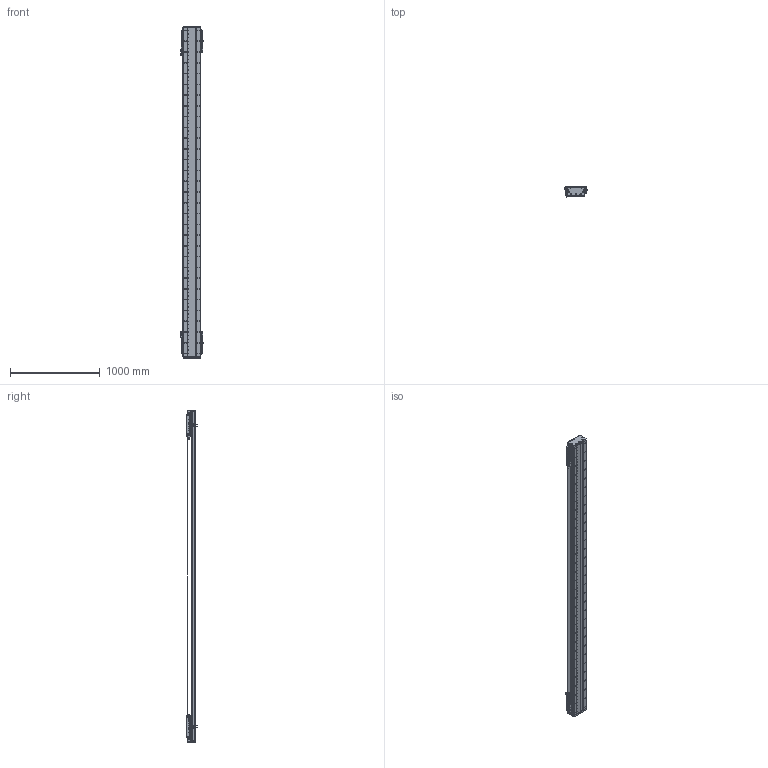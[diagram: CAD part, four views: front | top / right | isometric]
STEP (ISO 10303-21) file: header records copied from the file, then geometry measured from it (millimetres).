
FILE_DESCRIPTION (( 'STEP AP203' ), '1' );
FILE_NAME ('DA-C195-2-C3-T3080-C010-0.2 眻盄萇儂.STEP', '2025-08-15T00:54:00', ( '' ), ( '' ), 'SwSTEP 2.0', 'SolidWorks 2019', '' );
FILE_SCHEMA (( 'CONFIG_CONTROL_DESIGN' ));
Length unit declared in the file: millimetre
Products named in the file (19): IU-CU195-L 菁釱絳寢; DA-C195-2-C3-T3080-C010-0.2 眻盄萇儂; DA95-HXJ-00 遣喳砎蝶; DKW-KGZ-ZJ-00 中间光电开关支架; MS200 棠掑喜S315-T240; DA165-GYP-00 光电感应片(默认); PM-Y65嫖萇羲壽郪璃; DA-C195-GD-DB-H-00 傷啣; DA195詩湍菜輸; LMT黍杅芛; PM-T45ㄗ侂狟ㄘ; DKW-GYP-ZJ-00 笢潔嫖萇覜茼え; CU195-C3賑輸-俋楷; DA195詩湍裔啣; DKW168-HXJ-ZJ-00 笢潔滅袉砎蝶; DA195詩湍郪璃; DA195詩湍嶺輸; 葩璃 DA95-GT-T-00; IU-CU195-L-00 菁釱(L3660)
Assembly tree (37 placements, depth 3):
  DA-C195-2-C3-T3080-C010-0.2 眻盄萇儂
    DA195詩湍郪璃
      DA195詩湍菜輸  x2
      DA195詩湍裔啣
      DA195詩湍嶺輸  x2
      DA95-HXJ-00 遣喳砎蝶  x8
      DA-C195-GD-DB-H-00 傷啣  x2
    IU-CU195-L 菁釱絳寢
      IU-CU195-L-00 菁釱(L3660)
      葩璃 DA95-GT-T-00  x4
    LMT黍杅芛  x2
    MS200 棠掑喜S315-T240
    PM-T45ㄗ侂狟ㄘ  x4
    DA165-GYP-00 光电感应片(默认)  x2
    PM-Y65嫖萇羲壽郪璃
    DKW168-HXJ-ZJ-00 笢潔滅袉砎蝶
    DKW-GYP-ZJ-00 笢潔嫖萇覜茼え
    DKW-KGZ-ZJ-00 中间光电开关支架
    CU195-C3賑輸-俋楷  x2
Bounding box: 258.2 x 115.45 x 3700 mm (x, y, z)
Volume: 22455578.4 mm3; surface area: 6556092.9 mm2
Topology: 154 solids, 218 shells, 7351 faces, 20199 edges, 12661 vertices
Faces by surface type: cylinder 3730, plane 2569, cone 884, torus 88, sphere 72, bspline 8
Entity records: 173665 total; most frequent: CARTESIAN_POINT 49497, ORIENTED_EDGE 26414, DIRECTION 24464, EDGE_CURVE 13207, AXIS2_PLACEMENT_3D 9049, VERTEX_POINT 8586, LINE 6366, VECTOR 6366
